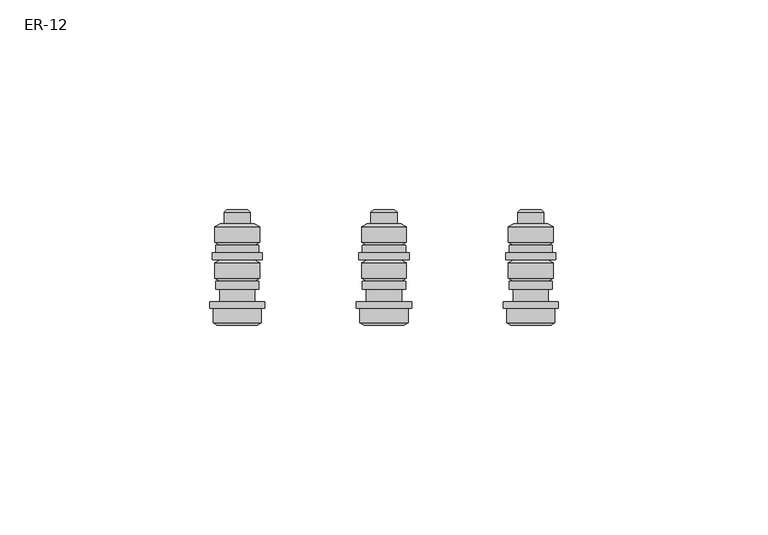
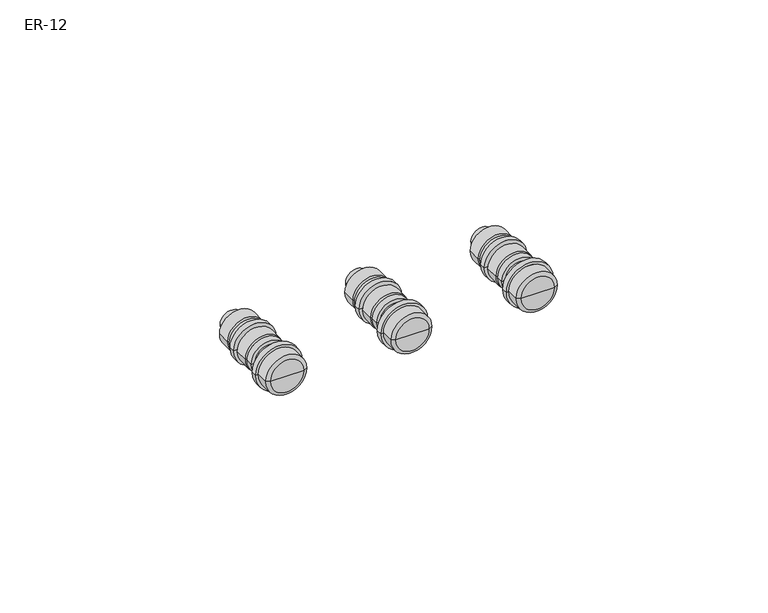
"""IFC4 building model written with IfcOpenShell, lengths in millimetres: proxy geometry, Шина заземления : ER-12."""

import ifcopenshell
import ifcopenshell.guid

model = None  # the IFC model being written
_history = None  # IfcOwnerHistory: only IFC2X3 demands one
_inside = {}  # id of a spatial element -> (the spatial element, [elements in it])
_under = {}  # id of a project, library or spatial element -> (it, [spatial elements below it])
_declared = {}  # id of a project -> (the project, [libraries it declares])
_typed = {}  # id of a type object -> (the type object, [elements of that type])
_made_of = {}  # id of a material, layer set ... -> (it, [elements and type objects made of it])


def new_model(schema):
    """Start an empty IFC model of exactly this schema.

    Asked for "IFC4X3", IfcOpenShell would pick the latest addendum, in which some entities
    have other attributes; the version numbers below select the first issue.
    IFC2X3 requires an IfcOwnerHistory on every rooted entity: one is made here for all.
    """
    global model, _history
    if schema == "IFC4X3":
        model = ifcopenshell.file(schema_version=(4, 3, 0, 0))
    else:
        model = ifcopenshell.file(schema=schema)
    _inside.clear()
    _under.clear()
    _declared.clear()
    _typed.clear()
    _made_of.clear()
    _history = None
    if model.schema == "IFC2X3":
        org = make("IfcOrganization", Name="unknown")
        user = make(
            "IfcPersonAndOrganization",
            ThePerson=make("IfcPerson", FamilyName="unknown"),
            TheOrganization=org,
        )
        app = make(
            "IfcApplication",
            ApplicationDeveloper=org,
            Version="unknown",
            ApplicationFullName="unknown",
            ApplicationIdentifier="unknown",
        )
        _history = make(
            "IfcOwnerHistory",
            OwningUser=user,
            OwningApplication=app,
            ChangeAction="ADDED",
            CreationDate=0,
        )
    return model


def make(cls, **values):
    """One entity of the class cls with the attributes given. An attribute that is None is left unset."""
    return model.create_entity(
        cls, **{name: value for name, value in values.items() if value is not None}
    )


def rooted(cls, **values):
    """An entity with a GlobalId (a new one), such as an element, a storey or a relation."""
    return make(cls, GlobalId=ifcopenshell.guid.new(), OwnerHistory=_history, **values)


def si_unit(unit_type, name, prefix=None):
    """IfcSIUnit, for example si_unit("LENGTHUNIT", "METRE", prefix="MILLI")."""
    return make("IfcSIUnit", UnitType=unit_type, Prefix=prefix, Name=name)


def assignment(units):
    """IfcUnitAssignment: the units of a project."""
    return None if units is None else make("IfcUnitAssignment", Units=units)


def point(xyz):
    """IfcCartesianPoint."""
    return None if xyz is None else make("IfcCartesianPoint", Coordinates=xyz)


def direction(xyz):
    """IfcDirection."""
    return None if xyz is None else make("IfcDirection", DirectionRatios=xyz)


def frame(location, z_axis=None, x_axis=None):
    """IfcAxis2Placement3D, a coordinate frame: its origin and axes. An axis left out is left unset."""
    return make(
        "IfcAxis2Placement3D",
        Location=point(location),
        Axis=direction(z_axis),
        RefDirection=direction(x_axis),
    )


def origin():
    """The frame at (0, 0, 0) with its axes left unset."""
    return frame((0.0, 0.0, 0.0))


def place(relative_to, where):
    """IfcLocalPlacement: puts the frame where relative to a parent placement (None: the world)."""
    return make(
        "IfcLocalPlacement", PlacementRelTo=relative_to, RelativePlacement=where
    )


def context(
    kind, dimensions, precision=None, world=None, true_north=None, identifier=None
):
    """IfcGeometricRepresentationContext, for example the 3D "Model" context."""
    return make(
        "IfcGeometricRepresentationContext",
        ContextIdentifier=identifier,
        ContextType=kind,
        CoordinateSpaceDimension=dimensions,
        Precision=precision,
        WorldCoordinateSystem=world,
        TrueNorth=true_north,
    )


def project(units=None, contexts=None):
    """IfcProject with its units and contexts."""
    return rooted(
        "IfcProject",
        Name="project",
        RepresentationContexts=contexts,
        UnitsInContext=assignment(units),
    )


def spatial(cls, under=None, at=None, **own):
    """A site, building, storey or space (cls), placed at a placement, below another one or the project."""
    s = rooted(cls, ObjectPlacement=at, **own)
    if under is not None:
        _under.setdefault(under.id(), (under, []))[1].append(s)
    return s


def polyline(points):
    """IfcPolyline through the points."""
    return make("IfcPolyline", Points=[point(p) for p in points])


def circle_curve(where, radius):
    """IfcCircle in the frame where."""
    return make("IfcCircle", Position=where, Radius=radius)


def shape(context_of_items, identifier, shape_type, items):
    """IfcShapeRepresentation: the items that make up one representation, for example the "Body"."""
    return make(
        "IfcShapeRepresentation",
        ContextOfItems=context_of_items,
        RepresentationIdentifier=identifier,
        RepresentationType=shape_type,
        Items=items,
    )


def source(mapping_origin, context_of_items, identifier, shape_type, items):
    """IfcRepresentationMap: a shape defined once, which mapped items show again and again."""
    return make(
        "IfcRepresentationMap",
        MappingOrigin=mapping_origin,
        MappedRepresentation=shape(context_of_items, identifier, shape_type, items),
    )


def transform(
    local_origin,
    x_axis=None,
    y_axis=None,
    z_axis=None,
    scale=None,
    scale2=None,
    scale3=None,
    uniform=True,
):
    """IfcCartesianTransformationOperator3D, or its non-uniform kind. x_axis, y_axis, z_axis: its Axis1, 2, 3."""
    if uniform:
        return make(
            "IfcCartesianTransformationOperator3D",
            Axis1=direction(x_axis),
            Axis2=direction(y_axis),
            LocalOrigin=point(local_origin),
            Scale=scale,
            Axis3=direction(z_axis),
        )
    return make(
        "IfcCartesianTransformationOperator3DnonUniform",
        Axis1=direction(x_axis),
        Axis2=direction(y_axis),
        LocalOrigin=point(local_origin),
        Scale=scale,
        Axis3=direction(z_axis),
        Scale2=scale2,
        Scale3=scale3,
    )


def mapped(mapping_source, mapping_target):
    """IfcMappedItem: shows the shape of a source again, moved by a transform."""
    return make(
        "IfcMappedItem", MappingSource=mapping_source, MappingTarget=mapping_target
    )


def made_of(thing, what):
    """Note that an element or type object is made of a material, layer set ...; save() writes the relation."""
    if what is not None:
        _made_of.setdefault(what.id(), (what, []))[1].append(thing)
    return thing


def element(
    cls,
    number,
    at=None,
    inside=None,
    cuts=None,
    type_object=None,
    material=None,
    context=None,
    identifier="Body",
    shape_type=None,
    held_by="IfcProductDefinitionShape",
    body=None,
    shapes=None,
    **own,
):
    """One element of the class cls, such as IfcWall. Its Tag is "e" and its number.

    at: its placement. inside: the storey or other place that contains it. cuts: it is an
    opening in that element (IfcRelVoidsElement). A single representation is given by context,
    identifier, shape_type and body (its items); several are given by shapes. held_by: the class
    of the entity that holds the representations. save() writes the other relations.
    """
    e = rooted(cls, Tag="e%d" % number, ObjectPlacement=at, **own)
    if body is not None:
        shapes = [shape(context, identifier, shape_type, body)]
    if shapes is not None:
        e.Representation = make(held_by, Representations=shapes)
    if inside is not None:
        _inside.setdefault(inside.id(), (inside, []))[1].append(e)
    if cuts is not None:
        rooted(
            "IfcRelVoidsElement", RelatingBuildingElement=cuts, RelatedOpeningElement=e
        )
    if type_object is not None:
        _typed.setdefault(type_object.id(), (type_object, []))[1].append(e)
    return made_of(e, material)


def aggregate(whole, parts):
    """IfcRelAggregates: a whole, such as a stair, and the parts it consists of."""
    return rooted("IfcRelAggregates", RelatingObject=whole, RelatedObjects=parts)


def save(model, path):
    """Write the relations noted so far, then the file.

    IfcRelAggregates (storeys below a building ...), IfcRelContainedInSpatialStructure (elements
    in a storey), IfcRelDefinesByType, IfcRelAssociatesMaterial and IfcRelDeclares: one each for
    every whole, place, type object, material and project.
    """
    for whole, parts in _under.values():
        aggregate(whole, parts)
    for where, things in _inside.values():
        rooted(
            "IfcRelContainedInSpatialStructure",
            RelatedElements=things,
            RelatingStructure=where,
        )
    for kind, things in _typed.values():
        rooted("IfcRelDefinesByType", RelatedObjects=things, RelatingType=kind)
    for what, things in _made_of.values():
        rooted("IfcRelAssociatesMaterial", RelatedObjects=things, RelatingMaterial=what)
    for by, libraries in _declared.values():
        rooted("IfcRelDeclares", RelatingContext=by, RelatedDefinitions=libraries)
    model.write(path)


def plane_surface(at):
    """IfcPlane: the flat surface through the origin of the frame at, square to its z axis."""
    return make("IfcPlane", Position=at)


def cylinder_surface(at, radius):
    """IfcCylindricalSurface: all points at the distance radius from the z axis of the frame at."""
    return make("IfcCylindricalSurface", Position=at, Radius=radius)


def revolved_surface(curve, axis_point, axis_direction):
    """IfcSurfaceOfRevolution: the curve turned about the line through axis_point along axis_direction."""
    return make(
        "IfcSurfaceOfRevolution",
        SweptCurve=make("IfcArbitraryOpenProfileDef", ProfileType="CURVE", Curve=curve),
        AxisPosition=make("IfcAxis1Placement", Location=point(axis_point), Axis=direction(axis_direction)),
    )


def advanced_brep(points, edges, surfaces, faces):
    """IfcAdvancedBrep: a solid bounded by faces that lie on surfaces and meet in shared edges.

    An edge is (start, end): straight between two places in points (the first is 0);
    or (start, end, curve); or (start, end, curve, False) where it runs against its curve.
    A face is (place in surfaces, loops), or (place, loops, False) where it looks against
    its surface's normal. A loop lists edges by number (the first is 1), with a minus sign
    where the edge is run from its end to its start. The first loop is the outer one.
    """
    corners = [point(p) for p in points]
    vertices = [make("IfcVertexPoint", VertexGeometry=c) for c in corners]
    made = []
    for start, end, *more in edges:
        made.append(
            make(
                "IfcEdgeCurve",
                EdgeStart=vertices[start],
                EdgeEnd=vertices[end],
                EdgeGeometry=more[0] if more else make("IfcPolyline", Points=[corners[start], corners[end]]),
                SameSense=more[1] if len(more) > 1 else True,
            )
        )
    hull = []
    for where, loops, *sense in faces:
        bounds = []
        for j, loop in enumerate(loops):
            ring = [make("IfcOrientedEdge", EdgeElement=made[abs(k) - 1], Orientation=k > 0) for k in loop]
            bounds.append(
                make(
                    "IfcFaceOuterBound" if j == 0 else "IfcFaceBound",
                    Bound=make("IfcEdgeLoop", EdgeList=ring),
                    Orientation=True,
                )
            )
        hull.append(make("IfcAdvancedFace", Bounds=bounds, FaceSurface=surfaces[where], SameSense=sense[0] if sense else True))
    return make("IfcAdvancedBrep", Outer=make("IfcClosedShell", CfsFaces=hull))


def er_12_a8c64b64(model_context):
    return source(origin(), model_context, "Body", "AdvancedBrep", [
        advanced_brep(
        [(-11.7264973, -8.0090804, 12.5), (-23.2735027, -8.0090804, 12.5), (-23.2735027, -4.6, 12.5), (-11.7264973, -4.6, 12.5), (-12.75, -8.6, 12.5), (-22.25, -8.6, 12.5), (-17.5, -8.6, 12.5), (-15.0415, 18.9478942, 12.5), (-19.9585, 18.9478942, 12.5), (-17.5, 18.9478942, 12.5), (-14.3828125, 18.3807956, 12.5), (-20.6171875, 18.3807956, 12.5), (-14.3828125, 15.6237103, 12.5), (-20.6171875, 15.6237103, 12.5), (-13.45, 15.6237103, 12.5), (-21.55, 15.6237103, 12.5), (-12.1764973, 14.8884531, 12.5), (-22.8235027, 14.8884531, 12.5), (-12.1764973, 11.1589674, 12.5), (-22.8235027, 11.1589674, 12.5), (-13.3098838, 10.4237103, 12.5), (-21.6901162, 10.4237103, 12.5), (-12.3240238, 10.4237103, 12.5), (-22.6759762, 10.4237103, 12.5), (-12.3240238, 8.637908, 12.5), (-22.6759762, 8.637908, 12.5), (-11.5, 8.637908, 12.5), (-23.5, 8.637908, 12.5), (-11.5, 7.037908, 12.5), (-23.5, 7.037908, 12.5), (-13.45, 7.037908, 12.5), (-21.55, 7.037908, 12.5), (-12.1764973, 6.3026509, 12.5), (-22.8235027, 6.3026509, 12.5), (-12.1764973, 2.5731651, 12.5), (-22.8235027, 2.5731651, 12.5), (-13.3098838, 1.837908, 12.5), (-21.6901162, 1.837908, 12.5), (-12.3240238, 1.837908, 12.5), (-22.6759762, 1.837908, 12.5), (-12.3240238, 0.0, 12.5), (-22.6759762, 0.0, 12.5), (-13.3098838, 0.0, 12.5), (-21.6901162, 0.0, 12.5), (-13.3098838, -3.0, 12.5), (-21.6901162, -3.0, 12.5), (-10.9352186, -3.0, 12.5), (-24.0647814, -3.0, 12.5), (-10.9352186, -4.6, 12.5), (-24.0647814, -4.6, 12.5)],
        [
            (0, 1, circle_curve(frame((-17.5, -8.0090804, 12.5), z_axis=(0.0, 1.0, 0.0), x_axis=(-1.0, 0.0, 0.0)), 5.7735027)),
            (1, 2),
            (2, 3, circle_curve(frame((-17.5, -4.6, 12.5), z_axis=(0.0, -1.0, 0.0), x_axis=(-1.0, 0.0, 0.0)), 5.7735027)),
            (3, 0),
            (1, 0, circle_curve(frame((-17.5, -8.0090804, 12.5), z_axis=(0.0, 1.0, 0.0), x_axis=(-1.0, 0.0, 0.0)), 5.7735027)),
            (3, 2, circle_curve(frame((-17.5, -4.6, 12.5), z_axis=(0.0, -1.0, 0.0), x_axis=(-1.0, 0.0, 0.0)), 5.7735027)),
            (4, 5, circle_curve(frame((-17.5, -8.6, 12.5), z_axis=(0.0, 1.0, 0.0), x_axis=(-1.0, 0.0, 0.0)), 4.75)),
            (5, 1),
            (0, 4),
            (5, 4, circle_curve(frame((-17.5, -8.6, 12.5), z_axis=(0.0, 1.0, 0.0), x_axis=(-1.0, 0.0, 0.0)), 4.75)),
            (6, 5),
            (4, 6),
            (7, 8, circle_curve(frame((-17.5, 18.9478942, 12.5), z_axis=(0.0, 1.0, 0.0), x_axis=(-1.0, 0.0, 0.0)), 2.4585)),
            (8, 9),
            (9, 7),
            (8, 7, circle_curve(frame((-17.5, 18.9478942, 12.5), z_axis=(0.0, 1.0, 0.0), x_axis=(-1.0, 0.0, 0.0)), 2.4585)),
            (10, 11, circle_curve(frame((-17.5, 18.3807956, 12.5), z_axis=(0.0, 1.0, 0.0), x_axis=(-1.0, 0.0, 0.0)), 3.1171875)),
            (11, 8),
            (7, 10),
            (11, 10, circle_curve(frame((-17.5, 18.3807956, 12.5), z_axis=(0.0, 1.0, 0.0), x_axis=(-1.0, 0.0, 0.0)), 3.1171875)),
            (12, 13, circle_curve(frame((-17.5, 15.6237103, 12.5), z_axis=(0.0, 1.0, 0.0), x_axis=(-1.0, 0.0, 0.0)), 3.1171875)),
            (13, 11),
            (10, 12),
            (13, 12, circle_curve(frame((-17.5, 15.6237103, 12.5), z_axis=(0.0, 1.0, 0.0), x_axis=(-1.0, 0.0, 0.0)), 3.1171875)),
            (14, 15, circle_curve(frame((-17.5, 15.6237103, 12.5), z_axis=(0.0, 1.0, 0.0), x_axis=(-1.0, 0.0, 0.0)), 4.05)),
            (15, 13),
            (12, 14),
            (15, 14, circle_curve(frame((-17.5, 15.6237103, 12.5), z_axis=(0.0, 1.0, 0.0), x_axis=(-1.0, 0.0, 0.0)), 4.05)),
            (16, 17, circle_curve(frame((-17.5, 14.8884531, 12.5), z_axis=(0.0, 1.0, 0.0), x_axis=(-1.0, 0.0, 0.0)), 5.3235027)),
            (17, 15),
            (14, 16),
            (17, 16, circle_curve(frame((-17.5, 14.8884531, 12.5), z_axis=(0.0, 1.0, 0.0), x_axis=(-1.0, 0.0, 0.0)), 5.3235027)),
            (18, 19, circle_curve(frame((-17.5, 11.1589674, 12.5), z_axis=(0.0, 1.0, 0.0), x_axis=(-1.0, 0.0, 0.0)), 5.3235027)),
            (19, 17),
            (16, 18),
            (19, 18, circle_curve(frame((-17.5, 11.1589674, 12.5), z_axis=(0.0, 1.0, 0.0), x_axis=(-1.0, 0.0, 0.0)), 5.3235027)),
            (20, 21, circle_curve(frame((-17.5, 10.4237103, 12.5), z_axis=(0.0, 1.0, 0.0), x_axis=(-1.0, 0.0, 0.0)), 4.1901162)),
            (21, 19),
            (18, 20),
            (21, 20, circle_curve(frame((-17.5, 10.4237103, 12.5), z_axis=(0.0, 1.0, 0.0), x_axis=(-1.0, 0.0, 0.0)), 4.1901162)),
            (22, 23, circle_curve(frame((-17.5, 10.4237103, 12.5), z_axis=(0.0, 1.0, 0.0), x_axis=(-1.0, 0.0, 0.0)), 5.1759762)),
            (23, 21),
            (20, 22),
            (23, 22, circle_curve(frame((-17.5, 10.4237103, 12.5), z_axis=(0.0, 1.0, 0.0), x_axis=(-1.0, 0.0, 0.0)), 5.1759762)),
            (24, 25, circle_curve(frame((-17.5, 8.637908, 12.5), z_axis=(0.0, 1.0, 0.0), x_axis=(-1.0, 0.0, 0.0)), 5.1759762)),
            (25, 23),
            (22, 24),
            (25, 24, circle_curve(frame((-17.5, 8.637908, 12.5), z_axis=(0.0, 1.0, 0.0), x_axis=(-1.0, 0.0, 0.0)), 5.1759762)),
            (26, 27, circle_curve(frame((-17.5, 8.637908, 12.5), z_axis=(0.0, 1.0, 0.0), x_axis=(-1.0, 0.0, 0.0)), 6.0)),
            (27, 25),
            (24, 26),
            (27, 26, circle_curve(frame((-17.5, 8.637908, 12.5), z_axis=(0.0, 1.0, 0.0), x_axis=(-1.0, 0.0, 0.0)), 6.0)),
            (28, 29, circle_curve(frame((-17.5, 7.037908, 12.5), z_axis=(0.0, 1.0, 0.0), x_axis=(-1.0, 0.0, 0.0)), 6.0)),
            (29, 27),
            (26, 28),
            (29, 28, circle_curve(frame((-17.5, 7.037908, 12.5), z_axis=(0.0, 1.0, 0.0), x_axis=(-1.0, 0.0, 0.0)), 6.0)),
            (30, 31, circle_curve(frame((-17.5, 7.037908, 12.5), z_axis=(0.0, 1.0, 0.0), x_axis=(-1.0, 0.0, 0.0)), 4.05)),
            (31, 29),
            (28, 30),
            (31, 30, circle_curve(frame((-17.5, 7.037908, 12.5), z_axis=(0.0, 1.0, 0.0), x_axis=(-1.0, 0.0, 0.0)), 4.05)),
            (32, 33, circle_curve(frame((-17.5, 6.3026509, 12.5), z_axis=(0.0, 1.0, 0.0), x_axis=(-1.0, 0.0, 0.0)), 5.3235027)),
            (33, 31),
            (30, 32),
            (33, 32, circle_curve(frame((-17.5, 6.3026509, 12.5), z_axis=(0.0, 1.0, 0.0), x_axis=(-1.0, 0.0, 0.0)), 5.3235027)),
            (34, 35, circle_curve(frame((-17.5, 2.5731651, 12.5), z_axis=(0.0, 1.0, 0.0), x_axis=(-1.0, 0.0, 0.0)), 5.3235027)),
            (35, 33),
            (32, 34),
            (35, 34, circle_curve(frame((-17.5, 2.5731651, 12.5), z_axis=(0.0, 1.0, 0.0), x_axis=(-1.0, 0.0, 0.0)), 5.3235027)),
            (36, 37, circle_curve(frame((-17.5, 1.837908, 12.5), z_axis=(0.0, 1.0, 0.0), x_axis=(-1.0, 0.0, 0.0)), 4.1901162)),
            (37, 35),
            (34, 36),
            (37, 36, circle_curve(frame((-17.5, 1.837908, 12.5), z_axis=(0.0, 1.0, 0.0), x_axis=(-1.0, 0.0, 0.0)), 4.1901162)),
            (38, 39, circle_curve(frame((-17.5, 1.837908, 12.5), z_axis=(0.0, 1.0, 0.0), x_axis=(-1.0, 0.0, 0.0)), 5.1759762)),
            (39, 37),
            (36, 38),
            (39, 38, circle_curve(frame((-17.5, 1.837908, 12.5), z_axis=(0.0, 1.0, 0.0), x_axis=(-1.0, 0.0, 0.0)), 5.1759762)),
            (40, 41, circle_curve(frame((-17.5, 0.0, 12.5), z_axis=(0.0, 1.0, 0.0), x_axis=(-1.0, 0.0, 0.0)), 5.1759762)),
            (41, 39),
            (38, 40),
            (41, 40, circle_curve(frame((-17.5, 0.0, 12.5), z_axis=(0.0, 1.0, 0.0), x_axis=(-1.0, 0.0, 0.0)), 5.1759762)),
            (42, 43, circle_curve(frame((-17.5, 0.0, 12.5), z_axis=(0.0, 1.0, 0.0), x_axis=(-1.0, 0.0, 0.0)), 4.1901162)),
            (43, 41),
            (40, 42),
            (43, 42, circle_curve(frame((-17.5, 0.0, 12.5), z_axis=(0.0, 1.0, 0.0), x_axis=(-1.0, 0.0, 0.0)), 4.1901162)),
            (44, 45, circle_curve(frame((-17.5, -3.0, 12.5), z_axis=(0.0, 1.0, 0.0), x_axis=(-1.0, 0.0, 0.0)), 4.1901162)),
            (45, 43),
            (42, 44),
            (45, 44, circle_curve(frame((-17.5, -3.0, 12.5), z_axis=(0.0, 1.0, 0.0), x_axis=(-1.0, 0.0, 0.0)), 4.1901162)),
            (46, 47, circle_curve(frame((-17.5, -3.0, 12.5), z_axis=(0.0, 1.0, 0.0), x_axis=(-1.0, 0.0, 0.0)), 6.5647814)),
            (47, 45),
            (44, 46),
            (47, 46, circle_curve(frame((-17.5, -3.0, 12.5), z_axis=(0.0, 1.0, 0.0), x_axis=(-1.0, 0.0, 0.0)), 6.5647814)),
            (48, 49, circle_curve(frame((-17.5, -4.6, 12.5), z_axis=(0.0, 1.0, 0.0), x_axis=(-1.0, 0.0, 0.0)), 6.5647814)),
            (49, 47),
            (46, 48),
            (49, 48, circle_curve(frame((-17.5, -4.6, 12.5), z_axis=(0.0, 1.0, 0.0), x_axis=(-1.0, 0.0, 0.0)), 6.5647814)),
            (2, 49),
            (48, 3),
        ],
        [
            cylinder_surface(frame((-17.5, 18.9478942, 12.5), z_axis=(0.0, -1.0, 0.0), x_axis=(-1.0, 0.0, 0.0)), 5.7735027),
            revolved_surface(polyline([(-23.2735027, -8.0090804, 12.5), (-22.25, -8.6, 12.5)]), (-17.5, 18.9478942, 12.5), (0.0, -1.0, 0.0)),
            plane_surface(frame((-17.5, -8.6, 12.5), z_axis=(0.0, -1.0, 0.0), x_axis=(-1.0, 0.0, 0.0))),
            plane_surface(frame((-17.5, 18.9478942, 12.5), z_axis=(0.0, 1.0, 0.0), x_axis=(-1.0, 0.0, 0.0))),
            revolved_surface(polyline([(-19.9585, 18.9478942, 12.5), (-20.6171875, 18.3807956, 12.5)]), (-17.5, 18.9478942, 12.5), (0.0, -1.0, 0.0)),
            cylinder_surface(frame((-17.5, 18.9478942, 12.5), z_axis=(0.0, -1.0, 0.0), x_axis=(-1.0, 0.0, 0.0)), 3.1171875),
            plane_surface(frame((-17.5, 15.6237103, 12.5), z_axis=(0.0, 1.0, 0.0), x_axis=(-1.0, 0.0, 0.0))),
            revolved_surface(polyline([(-21.55, 15.6237103, 12.5), (-22.8235027, 14.8884531, 12.5)]), (-17.5, 18.9478942, 12.5), (0.0, -1.0, 0.0)),
            cylinder_surface(frame((-17.5, 18.9478942, 12.5), z_axis=(0.0, -1.0, 0.0), x_axis=(-1.0, 0.0, 0.0)), 5.3235027),
            revolved_surface(polyline([(-22.8235027, 11.1589674, 12.5), (-21.6901162, 10.4237103, 12.5)]), (-17.5, 18.9478942, 12.5), (0.0, -1.0, 0.0)),
            plane_surface(frame((-17.5, 10.4237103, 12.5), z_axis=(0.0, 1.0, 0.0), x_axis=(-1.0, 0.0, 0.0))),
            cylinder_surface(frame((-17.5, 18.9478942, 12.5), z_axis=(0.0, -1.0, 0.0), x_axis=(-1.0, 0.0, 0.0)), 5.1759762),
            plane_surface(frame((-17.5, 8.637908, 12.5), z_axis=(0.0, 1.0, 0.0), x_axis=(-1.0, 0.0, 0.0))),
            cylinder_surface(frame((-17.5, 18.9478942, 12.5), z_axis=(0.0, -1.0, 0.0), x_axis=(-1.0, 0.0, 0.0)), 6.0),
            plane_surface(frame((-17.5, 7.037908, 12.5), z_axis=(0.0, -1.0, 0.0), x_axis=(-1.0, 0.0, 0.0))),
            revolved_surface(polyline([(-21.55, 7.037908, 12.5), (-22.8235027, 6.3026509, 12.5)]), (-17.5, 18.9478942, 12.5), (0.0, -1.0, 0.0)),
            revolved_surface(polyline([(-22.8235027, 2.5731651, 12.5), (-21.6901162, 1.837908, 12.5)]), (-17.5, 18.9478942, 12.5), (0.0, -1.0, 0.0)),
            plane_surface(frame((-17.5, 1.837908, 12.5), z_axis=(0.0, 1.0, 0.0), x_axis=(-1.0, 0.0, 0.0))),
            plane_surface(frame((-17.5, 0.0, 12.5), z_axis=(0.0, -1.0, 0.0), x_axis=(-1.0, 0.0, 0.0))),
            cylinder_surface(frame((-17.5, 18.9478942, 12.5), z_axis=(0.0, -1.0, 0.0), x_axis=(-1.0, 0.0, 0.0)), 4.1901162),
            plane_surface(frame((-17.5, -3.0, 12.5), z_axis=(0.0, 1.0, 0.0), x_axis=(-1.0, 0.0, 0.0))),
            cylinder_surface(frame((-17.5, 18.9478942, 12.5), z_axis=(0.0, -1.0, 0.0), x_axis=(-1.0, 0.0, 0.0)), 6.5647814),
            plane_surface(frame((-17.5, -4.6, 12.5), z_axis=(0.0, -1.0, 0.0), x_axis=(-1.0, 0.0, 0.0))),
        ],
        [
            (0, [[1, 2, 3, 4]]),
            (0, [[5, -4, 6, -2]]),
            (1, [[7, 8, -1, 9]]),
            (1, [[10, -9, -5, -8]]),
            (2, [[11, -7, 12]]),
            (2, [[-12, -10, -11]]),
            (3, [[13, 14, 15]]),
            (3, [[16, -15, -14]]),
            (4, [[17, 18, -13, 19]]),
            (4, [[20, -19, -16, -18]]),
            (5, [[21, 22, -17, 23]]),
            (5, [[24, -23, -20, -22]]),
            (6, [[25, 26, -21, 27]]),
            (6, [[28, -27, -24, -26]]),
            (7, [[29, 30, -25, 31]]),
            (7, [[32, -31, -28, -30]]),
            (8, [[33, 34, -29, 35]]),
            (8, [[36, -35, -32, -34]]),
            (9, [[37, 38, -33, 39]]),
            (9, [[40, -39, -36, -38]]),
            (10, [[41, 42, -37, 43]]),
            (10, [[44, -43, -40, -42]]),
            (11, [[45, 46, -41, 47]]),
            (11, [[48, -47, -44, -46]]),
            (12, [[49, 50, -45, 51]]),
            (12, [[52, -51, -48, -50]]),
            (13, [[53, 54, -49, 55]]),
            (13, [[56, -55, -52, -54]]),
            (14, [[57, 58, -53, 59]]),
            (14, [[60, -59, -56, -58]]),
            (15, [[61, 62, -57, 63]]),
            (15, [[64, -63, -60, -62]]),
            (8, [[65, 66, -61, 67]]),
            (8, [[68, -67, -64, -66]]),
            (16, [[69, 70, -65, 71]]),
            (16, [[72, -71, -68, -70]]),
            (17, [[73, 74, -69, 75]]),
            (17, [[76, -75, -72, -74]]),
            (11, [[77, 78, -73, 79]]),
            (11, [[80, -79, -76, -78]]),
            (18, [[81, 82, -77, 83]]),
            (18, [[84, -83, -80, -82]]),
            (19, [[85, 86, -81, 87]]),
            (19, [[88, -87, -84, -86]]),
            (20, [[89, 90, -85, 91]]),
            (20, [[92, -91, -88, -90]]),
            (21, [[93, 94, -89, 95]]),
            (21, [[96, -95, -92, -94]]),
            (22, [[-3, 97, -93, 98]]),
            (22, [[-6, -98, -96, -97]]),
        ],
    ),
        advanced_brep(
        [(-46.7264973, -8.0090804, 12.5), (-58.2735027, -8.0090804, 12.5), (-58.2735027, -4.6, 12.5), (-46.7264973, -4.6, 12.5), (-47.75, -8.6, 12.5), (-57.25, -8.6, 12.5), (-52.5, -8.6, 12.5), (-50.0415, 18.9478942, 12.5), (-54.9585, 18.9478942, 12.5), (-52.5, 18.9478942, 12.5), (-49.3828125, 18.3807956, 12.5), (-55.6171875, 18.3807956, 12.5), (-49.3828125, 15.6237103, 12.5), (-55.6171875, 15.6237103, 12.5), (-48.45, 15.6237103, 12.5), (-56.55, 15.6237103, 12.5), (-47.1764973, 14.8884531, 12.5), (-57.8235027, 14.8884531, 12.5), (-47.1764973, 11.1589674, 12.5), (-57.8235027, 11.1589674, 12.5), (-48.3098838, 10.4237103, 12.5), (-56.6901162, 10.4237103, 12.5), (-47.3240238, 10.4237103, 12.5), (-57.6759762, 10.4237103, 12.5), (-47.3240238, 8.637908, 12.5), (-57.6759762, 8.637908, 12.5), (-46.5, 8.637908, 12.5), (-58.5, 8.637908, 12.5), (-46.5, 7.037908, 12.5), (-58.5, 7.037908, 12.5), (-48.45, 7.037908, 12.5), (-56.55, 7.037908, 12.5), (-47.1764973, 6.3026509, 12.5), (-57.8235027, 6.3026509, 12.5), (-47.1764973, 2.5731651, 12.5), (-57.8235027, 2.5731651, 12.5), (-48.3098838, 1.837908, 12.5), (-56.6901162, 1.837908, 12.5), (-47.3240238, 1.837908, 12.5), (-57.6759762, 1.837908, 12.5), (-47.3240238, 0.0, 12.5), (-57.6759762, 0.0, 12.5), (-48.3098838, 0.0, 12.5), (-56.6901162, 0.0, 12.5), (-48.3098838, -3.0, 12.5), (-56.6901162, -3.0, 12.5), (-45.9352186, -3.0, 12.5), (-59.0647814, -3.0, 12.5), (-45.9352186, -4.6, 12.5), (-59.0647814, -4.6, 12.5)],
        [
            (0, 1, circle_curve(frame((-52.5, -8.0090804, 12.5), z_axis=(0.0, 1.0, 0.0), x_axis=(-1.0, 0.0, 0.0)), 5.7735027)),
            (1, 2),
            (2, 3, circle_curve(frame((-52.5, -4.6, 12.5), z_axis=(0.0, -1.0, 0.0), x_axis=(-1.0, 0.0, 0.0)), 5.7735027)),
            (3, 0),
            (1, 0, circle_curve(frame((-52.5, -8.0090804, 12.5), z_axis=(0.0, 1.0, 0.0), x_axis=(-1.0, 0.0, 0.0)), 5.7735027)),
            (3, 2, circle_curve(frame((-52.5, -4.6, 12.5), z_axis=(0.0, -1.0, 0.0), x_axis=(-1.0, 0.0, 0.0)), 5.7735027)),
            (4, 5, circle_curve(frame((-52.5, -8.6, 12.5), z_axis=(0.0, 1.0, 0.0), x_axis=(-1.0, 0.0, 0.0)), 4.75)),
            (5, 1),
            (0, 4),
            (5, 4, circle_curve(frame((-52.5, -8.6, 12.5), z_axis=(0.0, 1.0, 0.0), x_axis=(-1.0, 0.0, 0.0)), 4.75)),
            (6, 5),
            (4, 6),
            (7, 8, circle_curve(frame((-52.5, 18.9478942, 12.5), z_axis=(0.0, 1.0, 0.0), x_axis=(-1.0, 0.0, 0.0)), 2.4585)),
            (8, 9),
            (9, 7),
            (8, 7, circle_curve(frame((-52.5, 18.9478942, 12.5), z_axis=(0.0, 1.0, 0.0), x_axis=(-1.0, 0.0, 0.0)), 2.4585)),
            (10, 11, circle_curve(frame((-52.5, 18.3807956, 12.5), z_axis=(0.0, 1.0, 0.0), x_axis=(-1.0, 0.0, 0.0)), 3.1171875)),
            (11, 8),
            (7, 10),
            (11, 10, circle_curve(frame((-52.5, 18.3807956, 12.5), z_axis=(0.0, 1.0, 0.0), x_axis=(-1.0, 0.0, 0.0)), 3.1171875)),
            (12, 13, circle_curve(frame((-52.5, 15.6237103, 12.5), z_axis=(0.0, 1.0, 0.0), x_axis=(-1.0, 0.0, 0.0)), 3.1171875)),
            (13, 11),
            (10, 12),
            (13, 12, circle_curve(frame((-52.5, 15.6237103, 12.5), z_axis=(0.0, 1.0, 0.0), x_axis=(-1.0, 0.0, 0.0)), 3.1171875)),
            (14, 15, circle_curve(frame((-52.5, 15.6237103, 12.5), z_axis=(0.0, 1.0, 0.0), x_axis=(-1.0, 0.0, 0.0)), 4.05)),
            (15, 13),
            (12, 14),
            (15, 14, circle_curve(frame((-52.5, 15.6237103, 12.5), z_axis=(0.0, 1.0, 0.0), x_axis=(-1.0, 0.0, 0.0)), 4.05)),
            (16, 17, circle_curve(frame((-52.5, 14.8884531, 12.5), z_axis=(0.0, 1.0, 0.0), x_axis=(-1.0, 0.0, 0.0)), 5.3235027)),
            (17, 15),
            (14, 16),
            (17, 16, circle_curve(frame((-52.5, 14.8884531, 12.5), z_axis=(0.0, 1.0, 0.0), x_axis=(-1.0, 0.0, 0.0)), 5.3235027)),
            (18, 19, circle_curve(frame((-52.5, 11.1589674, 12.5), z_axis=(0.0, 1.0, 0.0), x_axis=(-1.0, 0.0, 0.0)), 5.3235027)),
            (19, 17),
            (16, 18),
            (19, 18, circle_curve(frame((-52.5, 11.1589674, 12.5), z_axis=(0.0, 1.0, 0.0), x_axis=(-1.0, 0.0, 0.0)), 5.3235027)),
            (20, 21, circle_curve(frame((-52.5, 10.4237103, 12.5), z_axis=(0.0, 1.0, 0.0), x_axis=(-1.0, 0.0, 0.0)), 4.1901162)),
            (21, 19),
            (18, 20),
            (21, 20, circle_curve(frame((-52.5, 10.4237103, 12.5), z_axis=(0.0, 1.0, 0.0), x_axis=(-1.0, 0.0, 0.0)), 4.1901162)),
            (22, 23, circle_curve(frame((-52.5, 10.4237103, 12.5), z_axis=(0.0, 1.0, 0.0), x_axis=(-1.0, 0.0, 0.0)), 5.1759762)),
            (23, 21),
            (20, 22),
            (23, 22, circle_curve(frame((-52.5, 10.4237103, 12.5), z_axis=(0.0, 1.0, 0.0), x_axis=(-1.0, 0.0, 0.0)), 5.1759762)),
            (24, 25, circle_curve(frame((-52.5, 8.637908, 12.5), z_axis=(0.0, 1.0, 0.0), x_axis=(-1.0, 0.0, 0.0)), 5.1759762)),
            (25, 23),
            (22, 24),
            (25, 24, circle_curve(frame((-52.5, 8.637908, 12.5), z_axis=(0.0, 1.0, 0.0), x_axis=(-1.0, 0.0, 0.0)), 5.1759762)),
            (26, 27, circle_curve(frame((-52.5, 8.637908, 12.5), z_axis=(0.0, 1.0, 0.0), x_axis=(-1.0, 0.0, 0.0)), 6.0)),
            (27, 25),
            (24, 26),
            (27, 26, circle_curve(frame((-52.5, 8.637908, 12.5), z_axis=(0.0, 1.0, 0.0), x_axis=(-1.0, 0.0, 0.0)), 6.0)),
            (28, 29, circle_curve(frame((-52.5, 7.037908, 12.5), z_axis=(0.0, 1.0, 0.0), x_axis=(-1.0, 0.0, 0.0)), 6.0)),
            (29, 27),
            (26, 28),
            (29, 28, circle_curve(frame((-52.5, 7.037908, 12.5), z_axis=(0.0, 1.0, 0.0), x_axis=(-1.0, 0.0, 0.0)), 6.0)),
            (30, 31, circle_curve(frame((-52.5, 7.037908, 12.5), z_axis=(0.0, 1.0, 0.0), x_axis=(-1.0, 0.0, 0.0)), 4.05)),
            (31, 29),
            (28, 30),
            (31, 30, circle_curve(frame((-52.5, 7.037908, 12.5), z_axis=(0.0, 1.0, 0.0), x_axis=(-1.0, 0.0, 0.0)), 4.05)),
            (32, 33, circle_curve(frame((-52.5, 6.3026509, 12.5), z_axis=(0.0, 1.0, 0.0), x_axis=(-1.0, 0.0, 0.0)), 5.3235027)),
            (33, 31),
            (30, 32),
            (33, 32, circle_curve(frame((-52.5, 6.3026509, 12.5), z_axis=(0.0, 1.0, 0.0), x_axis=(-1.0, 0.0, 0.0)), 5.3235027)),
            (34, 35, circle_curve(frame((-52.5, 2.5731651, 12.5), z_axis=(0.0, 1.0, 0.0), x_axis=(-1.0, 0.0, 0.0)), 5.3235027)),
            (35, 33),
            (32, 34),
            (35, 34, circle_curve(frame((-52.5, 2.5731651, 12.5), z_axis=(0.0, 1.0, 0.0), x_axis=(-1.0, 0.0, 0.0)), 5.3235027)),
            (36, 37, circle_curve(frame((-52.5, 1.837908, 12.5), z_axis=(0.0, 1.0, 0.0), x_axis=(-1.0, 0.0, 0.0)), 4.1901162)),
            (37, 35),
            (34, 36),
            (37, 36, circle_curve(frame((-52.5, 1.837908, 12.5), z_axis=(0.0, 1.0, 0.0), x_axis=(-1.0, 0.0, 0.0)), 4.1901162)),
            (38, 39, circle_curve(frame((-52.5, 1.837908, 12.5), z_axis=(0.0, 1.0, 0.0), x_axis=(-1.0, 0.0, 0.0)), 5.1759762)),
            (39, 37),
            (36, 38),
            (39, 38, circle_curve(frame((-52.5, 1.837908, 12.5), z_axis=(0.0, 1.0, 0.0), x_axis=(-1.0, 0.0, 0.0)), 5.1759762)),
            (40, 41, circle_curve(frame((-52.5, 0.0, 12.5), z_axis=(0.0, 1.0, 0.0), x_axis=(-1.0, 0.0, 0.0)), 5.1759762)),
            (41, 39),
            (38, 40),
            (41, 40, circle_curve(frame((-52.5, 0.0, 12.5), z_axis=(0.0, 1.0, 0.0), x_axis=(-1.0, 0.0, 0.0)), 5.1759762)),
            (42, 43, circle_curve(frame((-52.5, 0.0, 12.5), z_axis=(0.0, 1.0, 0.0), x_axis=(-1.0, 0.0, 0.0)), 4.1901162)),
            (43, 41),
            (40, 42),
            (43, 42, circle_curve(frame((-52.5, 0.0, 12.5), z_axis=(0.0, 1.0, 0.0), x_axis=(-1.0, 0.0, 0.0)), 4.1901162)),
            (44, 45, circle_curve(frame((-52.5, -3.0, 12.5), z_axis=(0.0, 1.0, 0.0), x_axis=(-1.0, 0.0, 0.0)), 4.1901162)),
            (45, 43),
            (42, 44),
            (45, 44, circle_curve(frame((-52.5, -3.0, 12.5), z_axis=(0.0, 1.0, 0.0), x_axis=(-1.0, 0.0, 0.0)), 4.1901162)),
            (46, 47, circle_curve(frame((-52.5, -3.0, 12.5), z_axis=(0.0, 1.0, 0.0), x_axis=(-1.0, 0.0, 0.0)), 6.5647814)),
            (47, 45),
            (44, 46),
            (47, 46, circle_curve(frame((-52.5, -3.0, 12.5), z_axis=(0.0, 1.0, 0.0), x_axis=(-1.0, 0.0, 0.0)), 6.5647814)),
            (48, 49, circle_curve(frame((-52.5, -4.6, 12.5), z_axis=(0.0, 1.0, 0.0), x_axis=(-1.0, 0.0, 0.0)), 6.5647814)),
            (49, 47),
            (46, 48),
            (49, 48, circle_curve(frame((-52.5, -4.6, 12.5), z_axis=(0.0, 1.0, 0.0), x_axis=(-1.0, 0.0, 0.0)), 6.5647814)),
            (2, 49),
            (48, 3),
        ],
        [
            cylinder_surface(frame((-52.5, 18.9478942, 12.5), z_axis=(0.0, -1.0, 0.0), x_axis=(-1.0, 0.0, 0.0)), 5.7735027),
            revolved_surface(polyline([(-58.2735027, -8.0090804, 12.5), (-57.25, -8.6, 12.5)]), (-52.5, 18.9478942, 12.5), (0.0, -1.0, 0.0)),
            plane_surface(frame((-52.5, -8.6, 12.5), z_axis=(0.0, -1.0, 0.0), x_axis=(-1.0, 0.0, 0.0))),
            plane_surface(frame((-52.5, 18.9478942, 12.5), z_axis=(0.0, 1.0, 0.0), x_axis=(-1.0, 0.0, 0.0))),
            revolved_surface(polyline([(-54.9585, 18.9478942, 12.5), (-55.6171875, 18.3807956, 12.5)]), (-52.5, 18.9478942, 12.5), (0.0, -1.0, 0.0)),
            cylinder_surface(frame((-52.5, 18.9478942, 12.5), z_axis=(0.0, -1.0, 0.0), x_axis=(-1.0, 0.0, 0.0)), 3.1171875),
            plane_surface(frame((-52.5, 15.6237103, 12.5), z_axis=(0.0, 1.0, 0.0), x_axis=(-1.0, 0.0, 0.0))),
            revolved_surface(polyline([(-56.55, 15.6237103, 12.5), (-57.8235027, 14.8884531, 12.5)]), (-52.5, 18.9478942, 12.5), (0.0, -1.0, 0.0)),
            cylinder_surface(frame((-52.5, 18.9478942, 12.5), z_axis=(0.0, -1.0, 0.0), x_axis=(-1.0, 0.0, 0.0)), 5.3235027),
            revolved_surface(polyline([(-57.8235027, 11.1589674, 12.5), (-56.6901162, 10.4237103, 12.5)]), (-52.5, 18.9478942, 12.5), (0.0, -1.0, 0.0)),
            plane_surface(frame((-52.5, 10.4237103, 12.5), z_axis=(0.0, 1.0, 0.0), x_axis=(-1.0, 0.0, 0.0))),
            cylinder_surface(frame((-52.5, 18.9478942, 12.5), z_axis=(0.0, -1.0, 0.0), x_axis=(-1.0, 0.0, 0.0)), 5.1759762),
            plane_surface(frame((-52.5, 8.637908, 12.5), z_axis=(0.0, 1.0, 0.0), x_axis=(-1.0, 0.0, 0.0))),
            cylinder_surface(frame((-52.5, 18.9478942, 12.5), z_axis=(0.0, -1.0, 0.0), x_axis=(-1.0, 0.0, 0.0)), 6.0),
            plane_surface(frame((-52.5, 7.037908, 12.5), z_axis=(0.0, -1.0, 0.0), x_axis=(-1.0, 0.0, 0.0))),
            revolved_surface(polyline([(-56.55, 7.037908, 12.5), (-57.8235027, 6.3026509, 12.5)]), (-52.5, 18.9478942, 12.5), (0.0, -1.0, 0.0)),
            revolved_surface(polyline([(-57.8235027, 2.5731651, 12.5), (-56.6901162, 1.837908, 12.5)]), (-52.5, 18.9478942, 12.5), (0.0, -1.0, 0.0)),
            plane_surface(frame((-52.5, 1.837908, 12.5), z_axis=(0.0, 1.0, 0.0), x_axis=(-1.0, 0.0, 0.0))),
            plane_surface(frame((-52.5, 0.0, 12.5), z_axis=(0.0, -1.0, 0.0), x_axis=(-1.0, 0.0, 0.0))),
            cylinder_surface(frame((-52.5, 18.9478942, 12.5), z_axis=(0.0, -1.0, 0.0), x_axis=(-1.0, 0.0, 0.0)), 4.1901162),
            plane_surface(frame((-52.5, -3.0, 12.5), z_axis=(0.0, 1.0, 0.0), x_axis=(-1.0, 0.0, 0.0))),
            cylinder_surface(frame((-52.5, 18.9478942, 12.5), z_axis=(0.0, -1.0, 0.0), x_axis=(-1.0, 0.0, 0.0)), 6.5647814),
            plane_surface(frame((-52.5, -4.6, 12.5), z_axis=(0.0, -1.0, 0.0), x_axis=(-1.0, 0.0, 0.0))),
        ],
        [
            (0, [[1, 2, 3, 4]]),
            (0, [[5, -4, 6, -2]]),
            (1, [[7, 8, -1, 9]]),
            (1, [[10, -9, -5, -8]]),
            (2, [[11, -7, 12]]),
            (2, [[-12, -10, -11]]),
            (3, [[13, 14, 15]]),
            (3, [[16, -15, -14]]),
            (4, [[17, 18, -13, 19]]),
            (4, [[20, -19, -16, -18]]),
            (5, [[21, 22, -17, 23]]),
            (5, [[24, -23, -20, -22]]),
            (6, [[25, 26, -21, 27]]),
            (6, [[28, -27, -24, -26]]),
            (7, [[29, 30, -25, 31]]),
            (7, [[32, -31, -28, -30]]),
            (8, [[33, 34, -29, 35]]),
            (8, [[36, -35, -32, -34]]),
            (9, [[37, 38, -33, 39]]),
            (9, [[40, -39, -36, -38]]),
            (10, [[41, 42, -37, 43]]),
            (10, [[44, -43, -40, -42]]),
            (11, [[45, 46, -41, 47]]),
            (11, [[48, -47, -44, -46]]),
            (12, [[49, 50, -45, 51]]),
            (12, [[52, -51, -48, -50]]),
            (13, [[53, 54, -49, 55]]),
            (13, [[56, -55, -52, -54]]),
            (14, [[57, 58, -53, 59]]),
            (14, [[60, -59, -56, -58]]),
            (15, [[61, 62, -57, 63]]),
            (15, [[64, -63, -60, -62]]),
            (8, [[65, 66, -61, 67]]),
            (8, [[68, -67, -64, -66]]),
            (16, [[69, 70, -65, 71]]),
            (16, [[72, -71, -68, -70]]),
            (17, [[73, 74, -69, 75]]),
            (17, [[76, -75, -72, -74]]),
            (11, [[77, 78, -73, 79]]),
            (11, [[80, -79, -76, -78]]),
            (18, [[81, 82, -77, 83]]),
            (18, [[84, -83, -80, -82]]),
            (19, [[85, 86, -81, 87]]),
            (19, [[88, -87, -84, -86]]),
            (20, [[89, 90, -85, 91]]),
            (20, [[92, -91, -88, -90]]),
            (21, [[93, 94, -89, 95]]),
            (21, [[96, -95, -92, -94]]),
            (22, [[-3, 97, -93, 98]]),
            (22, [[-6, -98, -96, -97]]),
        ],
    ),
        advanced_brep(
        [(-81.7264973, -8.0090804, 12.5), (-93.2735027, -8.0090804, 12.5), (-93.2735027, -4.6, 12.5), (-81.7264973, -4.6, 12.5), (-82.75, -8.6, 12.5), (-92.25, -8.6, 12.5), (-87.5, -8.6, 12.5), (-85.0415, 18.9478942, 12.5), (-89.9585, 18.9478942, 12.5), (-87.5, 18.9478942, 12.5), (-84.3828125, 18.3807956, 12.5), (-90.6171875, 18.3807956, 12.5), (-84.3828125, 15.6237103, 12.5), (-90.6171875, 15.6237103, 12.5), (-83.45, 15.6237103, 12.5), (-91.55, 15.6237103, 12.5), (-82.1764973, 14.8884531, 12.5), (-92.8235027, 14.8884531, 12.5), (-82.1764973, 11.1589674, 12.5), (-92.8235027, 11.1589674, 12.5), (-83.3098838, 10.4237103, 12.5), (-91.6901162, 10.4237103, 12.5), (-82.3240238, 10.4237103, 12.5), (-92.6759762, 10.4237103, 12.5), (-82.3240238, 8.637908, 12.5), (-92.6759762, 8.637908, 12.5), (-81.5, 8.637908, 12.5), (-93.5, 8.637908, 12.5), (-81.5, 7.037908, 12.5), (-93.5, 7.037908, 12.5), (-83.45, 7.037908, 12.5), (-91.55, 7.037908, 12.5), (-82.1764973, 6.3026509, 12.5), (-92.8235027, 6.3026509, 12.5), (-82.1764973, 2.5731651, 12.5), (-92.8235027, 2.5731651, 12.5), (-83.3098838, 1.837908, 12.5), (-91.6901162, 1.837908, 12.5), (-82.3240238, 1.837908, 12.5), (-92.6759762, 1.837908, 12.5), (-82.3240238, 0.0, 12.5), (-92.6759762, 0.0, 12.5), (-83.3098838, 0.0, 12.5), (-91.6901162, 0.0, 12.5), (-83.3098838, -3.0, 12.5), (-91.6901162, -3.0, 12.5), (-80.9352186, -3.0, 12.5), (-94.0647814, -3.0, 12.5), (-80.9352186, -4.6, 12.5), (-94.0647814, -4.6, 12.5)],
        [
            (0, 1, circle_curve(frame((-87.5, -8.0090804, 12.5), z_axis=(0.0, 1.0, 0.0), x_axis=(-1.0, 0.0, 0.0)), 5.7735027)),
            (1, 2),
            (2, 3, circle_curve(frame((-87.5, -4.6, 12.5), z_axis=(0.0, -1.0, 0.0), x_axis=(-1.0, 0.0, 0.0)), 5.7735027)),
            (3, 0),
            (1, 0, circle_curve(frame((-87.5, -8.0090804, 12.5), z_axis=(0.0, 1.0, 0.0), x_axis=(-1.0, 0.0, 0.0)), 5.7735027)),
            (3, 2, circle_curve(frame((-87.5, -4.6, 12.5), z_axis=(0.0, -1.0, 0.0), x_axis=(-1.0, 0.0, 0.0)), 5.7735027)),
            (4, 5, circle_curve(frame((-87.5, -8.6, 12.5), z_axis=(0.0, 1.0, 0.0), x_axis=(-1.0, 0.0, 0.0)), 4.75)),
            (5, 1),
            (0, 4),
            (5, 4, circle_curve(frame((-87.5, -8.6, 12.5), z_axis=(0.0, 1.0, 0.0), x_axis=(-1.0, 0.0, 0.0)), 4.75)),
            (6, 5),
            (4, 6),
            (7, 8, circle_curve(frame((-87.5, 18.9478942, 12.5), z_axis=(0.0, 1.0, 0.0), x_axis=(-1.0, 0.0, 0.0)), 2.4585)),
            (8, 9),
            (9, 7),
            (8, 7, circle_curve(frame((-87.5, 18.9478942, 12.5), z_axis=(0.0, 1.0, 0.0), x_axis=(-1.0, 0.0, 0.0)), 2.4585)),
            (10, 11, circle_curve(frame((-87.5, 18.3807956, 12.5), z_axis=(0.0, 1.0, 0.0), x_axis=(-1.0, 0.0, 0.0)), 3.1171875)),
            (11, 8),
            (7, 10),
            (11, 10, circle_curve(frame((-87.5, 18.3807956, 12.5), z_axis=(0.0, 1.0, 0.0), x_axis=(-1.0, 0.0, 0.0)), 3.1171875)),
            (12, 13, circle_curve(frame((-87.5, 15.6237103, 12.5), z_axis=(0.0, 1.0, 0.0), x_axis=(-1.0, 0.0, 0.0)), 3.1171875)),
            (13, 11),
            (10, 12),
            (13, 12, circle_curve(frame((-87.5, 15.6237103, 12.5), z_axis=(0.0, 1.0, 0.0), x_axis=(-1.0, 0.0, 0.0)), 3.1171875)),
            (14, 15, circle_curve(frame((-87.5, 15.6237103, 12.5), z_axis=(0.0, 1.0, 0.0), x_axis=(-1.0, 0.0, 0.0)), 4.05)),
            (15, 13),
            (12, 14),
            (15, 14, circle_curve(frame((-87.5, 15.6237103, 12.5), z_axis=(0.0, 1.0, 0.0), x_axis=(-1.0, 0.0, 0.0)), 4.05)),
            (16, 17, circle_curve(frame((-87.5, 14.8884531, 12.5), z_axis=(0.0, 1.0, 0.0), x_axis=(-1.0, 0.0, 0.0)), 5.3235027)),
            (17, 15),
            (14, 16),
            (17, 16, circle_curve(frame((-87.5, 14.8884531, 12.5), z_axis=(0.0, 1.0, 0.0), x_axis=(-1.0, 0.0, 0.0)), 5.3235027)),
            (18, 19, circle_curve(frame((-87.5, 11.1589674, 12.5), z_axis=(0.0, 1.0, 0.0), x_axis=(-1.0, 0.0, 0.0)), 5.3235027)),
            (19, 17),
            (16, 18),
            (19, 18, circle_curve(frame((-87.5, 11.1589674, 12.5), z_axis=(0.0, 1.0, 0.0), x_axis=(-1.0, 0.0, 0.0)), 5.3235027)),
            (20, 21, circle_curve(frame((-87.5, 10.4237103, 12.5), z_axis=(0.0, 1.0, 0.0), x_axis=(-1.0, 0.0, 0.0)), 4.1901162)),
            (21, 19),
            (18, 20),
            (21, 20, circle_curve(frame((-87.5, 10.4237103, 12.5), z_axis=(0.0, 1.0, 0.0), x_axis=(-1.0, 0.0, 0.0)), 4.1901162)),
            (22, 23, circle_curve(frame((-87.5, 10.4237103, 12.5), z_axis=(0.0, 1.0, 0.0), x_axis=(-1.0, 0.0, 0.0)), 5.1759762)),
            (23, 21),
            (20, 22),
            (23, 22, circle_curve(frame((-87.5, 10.4237103, 12.5), z_axis=(0.0, 1.0, 0.0), x_axis=(-1.0, 0.0, 0.0)), 5.1759762)),
            (24, 25, circle_curve(frame((-87.5, 8.637908, 12.5), z_axis=(0.0, 1.0, 0.0), x_axis=(-1.0, 0.0, 0.0)), 5.1759762)),
            (25, 23),
            (22, 24),
            (25, 24, circle_curve(frame((-87.5, 8.637908, 12.5), z_axis=(0.0, 1.0, 0.0), x_axis=(-1.0, 0.0, 0.0)), 5.1759762)),
            (26, 27, circle_curve(frame((-87.5, 8.637908, 12.5), z_axis=(0.0, 1.0, 0.0), x_axis=(-1.0, 0.0, 0.0)), 6.0)),
            (27, 25),
            (24, 26),
            (27, 26, circle_curve(frame((-87.5, 8.637908, 12.5), z_axis=(0.0, 1.0, 0.0), x_axis=(-1.0, 0.0, 0.0)), 6.0)),
            (28, 29, circle_curve(frame((-87.5, 7.037908, 12.5), z_axis=(0.0, 1.0, 0.0), x_axis=(-1.0, 0.0, 0.0)), 6.0)),
            (29, 27),
            (26, 28),
            (29, 28, circle_curve(frame((-87.5, 7.037908, 12.5), z_axis=(0.0, 1.0, 0.0), x_axis=(-1.0, 0.0, 0.0)), 6.0)),
            (30, 31, circle_curve(frame((-87.5, 7.037908, 12.5), z_axis=(0.0, 1.0, 0.0), x_axis=(-1.0, 0.0, 0.0)), 4.05)),
            (31, 29),
            (28, 30),
            (31, 30, circle_curve(frame((-87.5, 7.037908, 12.5), z_axis=(0.0, 1.0, 0.0), x_axis=(-1.0, 0.0, 0.0)), 4.05)),
            (32, 33, circle_curve(frame((-87.5, 6.3026509, 12.5), z_axis=(0.0, 1.0, 0.0), x_axis=(-1.0, 0.0, 0.0)), 5.3235027)),
            (33, 31),
            (30, 32),
            (33, 32, circle_curve(frame((-87.5, 6.3026509, 12.5), z_axis=(0.0, 1.0, 0.0), x_axis=(-1.0, 0.0, 0.0)), 5.3235027)),
            (34, 35, circle_curve(frame((-87.5, 2.5731651, 12.5), z_axis=(0.0, 1.0, 0.0), x_axis=(-1.0, 0.0, 0.0)), 5.3235027)),
            (35, 33),
            (32, 34),
            (35, 34, circle_curve(frame((-87.5, 2.5731651, 12.5), z_axis=(0.0, 1.0, 0.0), x_axis=(-1.0, 0.0, 0.0)), 5.3235027)),
            (36, 37, circle_curve(frame((-87.5, 1.837908, 12.5), z_axis=(0.0, 1.0, 0.0), x_axis=(-1.0, 0.0, 0.0)), 4.1901162)),
            (37, 35),
            (34, 36),
            (37, 36, circle_curve(frame((-87.5, 1.837908, 12.5), z_axis=(0.0, 1.0, 0.0), x_axis=(-1.0, 0.0, 0.0)), 4.1901162)),
            (38, 39, circle_curve(frame((-87.5, 1.837908, 12.5), z_axis=(0.0, 1.0, 0.0), x_axis=(-1.0, 0.0, 0.0)), 5.1759762)),
            (39, 37),
            (36, 38),
            (39, 38, circle_curve(frame((-87.5, 1.837908, 12.5), z_axis=(0.0, 1.0, 0.0), x_axis=(-1.0, 0.0, 0.0)), 5.1759762)),
            (40, 41, circle_curve(frame((-87.5, 0.0, 12.5), z_axis=(0.0, 1.0, 0.0), x_axis=(-1.0, 0.0, 0.0)), 5.1759762)),
            (41, 39),
            (38, 40),
            (41, 40, circle_curve(frame((-87.5, 0.0, 12.5), z_axis=(0.0, 1.0, 0.0), x_axis=(-1.0, 0.0, 0.0)), 5.1759762)),
            (42, 43, circle_curve(frame((-87.5, 0.0, 12.5), z_axis=(0.0, 1.0, 0.0), x_axis=(-1.0, 0.0, 0.0)), 4.1901162)),
            (43, 41),
            (40, 42),
            (43, 42, circle_curve(frame((-87.5, 0.0, 12.5), z_axis=(0.0, 1.0, 0.0), x_axis=(-1.0, 0.0, 0.0)), 4.1901162)),
            (44, 45, circle_curve(frame((-87.5, -3.0, 12.5), z_axis=(0.0, 1.0, 0.0), x_axis=(-1.0, 0.0, 0.0)), 4.1901162)),
            (45, 43),
            (42, 44),
            (45, 44, circle_curve(frame((-87.5, -3.0, 12.5), z_axis=(0.0, 1.0, 0.0), x_axis=(-1.0, 0.0, 0.0)), 4.1901162)),
            (46, 47, circle_curve(frame((-87.5, -3.0, 12.5), z_axis=(0.0, 1.0, 0.0), x_axis=(-1.0, 0.0, 0.0)), 6.5647814)),
            (47, 45),
            (44, 46),
            (47, 46, circle_curve(frame((-87.5, -3.0, 12.5), z_axis=(0.0, 1.0, 0.0), x_axis=(-1.0, 0.0, 0.0)), 6.5647814)),
            (48, 49, circle_curve(frame((-87.5, -4.6, 12.5), z_axis=(0.0, 1.0, 0.0), x_axis=(-1.0, 0.0, 0.0)), 6.5647814)),
            (49, 47),
            (46, 48),
            (49, 48, circle_curve(frame((-87.5, -4.6, 12.5), z_axis=(0.0, 1.0, 0.0), x_axis=(-1.0, 0.0, 0.0)), 6.5647814)),
            (2, 49),
            (48, 3),
        ],
        [
            cylinder_surface(frame((-87.5, 18.9478942, 12.5), z_axis=(0.0, -1.0, 0.0), x_axis=(-1.0, 0.0, 0.0)), 5.7735027),
            revolved_surface(polyline([(-93.2735027, -8.0090804, 12.5), (-92.25, -8.6, 12.5)]), (-87.5, 18.9478942, 12.5), (0.0, -1.0, 0.0)),
            plane_surface(frame((-87.5, -8.6, 12.5), z_axis=(0.0, -1.0, 0.0), x_axis=(-1.0, 0.0, 0.0))),
            plane_surface(frame((-87.5, 18.9478942, 12.5), z_axis=(0.0, 1.0, 0.0), x_axis=(-1.0, 0.0, 0.0))),
            revolved_surface(polyline([(-89.9585, 18.9478942, 12.5), (-90.6171875, 18.3807956, 12.5)]), (-87.5, 18.9478942, 12.5), (0.0, -1.0, 0.0)),
            cylinder_surface(frame((-87.5, 18.9478942, 12.5), z_axis=(0.0, -1.0, 0.0), x_axis=(-1.0, 0.0, 0.0)), 3.1171875),
            plane_surface(frame((-87.5, 15.6237103, 12.5), z_axis=(0.0, 1.0, 0.0), x_axis=(-1.0, 0.0, 0.0))),
            revolved_surface(polyline([(-91.55, 15.6237103, 12.5), (-92.8235027, 14.8884531, 12.5)]), (-87.5, 18.9478942, 12.5), (0.0, -1.0, 0.0)),
            cylinder_surface(frame((-87.5, 18.9478942, 12.5), z_axis=(0.0, -1.0, 0.0), x_axis=(-1.0, 0.0, 0.0)), 5.3235027),
            revolved_surface(polyline([(-92.8235027, 11.1589674, 12.5), (-91.6901162, 10.4237103, 12.5)]), (-87.5, 18.9478942, 12.5), (0.0, -1.0, 0.0)),
            plane_surface(frame((-87.5, 10.4237103, 12.5), z_axis=(0.0, 1.0, 0.0), x_axis=(-1.0, 0.0, 0.0))),
            cylinder_surface(frame((-87.5, 18.9478942, 12.5), z_axis=(0.0, -1.0, 0.0), x_axis=(-1.0, 0.0, 0.0)), 5.1759762),
            plane_surface(frame((-87.5, 8.637908, 12.5), z_axis=(0.0, 1.0, 0.0), x_axis=(-1.0, 0.0, 0.0))),
            cylinder_surface(frame((-87.5, 18.9478942, 12.5), z_axis=(0.0, -1.0, 0.0), x_axis=(-1.0, 0.0, 0.0)), 6.0),
            plane_surface(frame((-87.5, 7.037908, 12.5), z_axis=(0.0, -1.0, 0.0), x_axis=(-1.0, 0.0, 0.0))),
            revolved_surface(polyline([(-91.55, 7.037908, 12.5), (-92.8235027, 6.3026509, 12.5)]), (-87.5, 18.9478942, 12.5), (0.0, -1.0, 0.0)),
            revolved_surface(polyline([(-92.8235027, 2.5731651, 12.5), (-91.6901162, 1.837908, 12.5)]), (-87.5, 18.9478942, 12.5), (0.0, -1.0, 0.0)),
            plane_surface(frame((-87.5, 1.837908, 12.5), z_axis=(0.0, 1.0, 0.0), x_axis=(-1.0, 0.0, 0.0))),
            plane_surface(frame((-87.5, 0.0, 12.5), z_axis=(0.0, -1.0, 0.0), x_axis=(-1.0, 0.0, 0.0))),
            cylinder_surface(frame((-87.5, 18.9478942, 12.5), z_axis=(0.0, -1.0, 0.0), x_axis=(-1.0, 0.0, 0.0)), 4.1901162),
            plane_surface(frame((-87.5, -3.0, 12.5), z_axis=(0.0, 1.0, 0.0), x_axis=(-1.0, 0.0, 0.0))),
            cylinder_surface(frame((-87.5, 18.9478942, 12.5), z_axis=(0.0, -1.0, 0.0), x_axis=(-1.0, 0.0, 0.0)), 6.5647814),
            plane_surface(frame((-87.5, -4.6, 12.5), z_axis=(0.0, -1.0, 0.0), x_axis=(-1.0, 0.0, 0.0))),
        ],
        [
            (0, [[1, 2, 3, 4]]),
            (0, [[5, -4, 6, -2]]),
            (1, [[7, 8, -1, 9]]),
            (1, [[10, -9, -5, -8]]),
            (2, [[11, -7, 12]]),
            (2, [[-12, -10, -11]]),
            (3, [[13, 14, 15]]),
            (3, [[16, -15, -14]]),
            (4, [[17, 18, -13, 19]]),
            (4, [[20, -19, -16, -18]]),
            (5, [[21, 22, -17, 23]]),
            (5, [[24, -23, -20, -22]]),
            (6, [[25, 26, -21, 27]]),
            (6, [[28, -27, -24, -26]]),
            (7, [[29, 30, -25, 31]]),
            (7, [[32, -31, -28, -30]]),
            (8, [[33, 34, -29, 35]]),
            (8, [[36, -35, -32, -34]]),
            (9, [[37, 38, -33, 39]]),
            (9, [[40, -39, -36, -38]]),
            (10, [[41, 42, -37, 43]]),
            (10, [[44, -43, -40, -42]]),
            (11, [[45, 46, -41, 47]]),
            (11, [[48, -47, -44, -46]]),
            (12, [[49, 50, -45, 51]]),
            (12, [[52, -51, -48, -50]]),
            (13, [[53, 54, -49, 55]]),
            (13, [[56, -55, -52, -54]]),
            (14, [[57, 58, -53, 59]]),
            (14, [[60, -59, -56, -58]]),
            (15, [[61, 62, -57, 63]]),
            (15, [[64, -63, -60, -62]]),
            (8, [[65, 66, -61, 67]]),
            (8, [[68, -67, -64, -66]]),
            (16, [[69, 70, -65, 71]]),
            (16, [[72, -71, -68, -70]]),
            (17, [[73, 74, -69, 75]]),
            (17, [[76, -75, -72, -74]]),
            (11, [[77, 78, -73, 79]]),
            (11, [[80, -79, -76, -78]]),
            (18, [[81, 82, -77, 83]]),
            (18, [[84, -83, -80, -82]]),
            (19, [[85, 86, -81, 87]]),
            (19, [[88, -87, -84, -86]]),
            (20, [[89, 90, -85, 91]]),
            (20, [[92, -91, -88, -90]]),
            (21, [[93, 94, -89, 95]]),
            (21, [[96, -95, -92, -94]]),
            (22, [[-3, 97, -93, 98]]),
            (22, [[-6, -98, -96, -97]]),
        ],
    ),
    ])


if __name__ == "__main__":
    model = new_model("IFC4")
    model_context = context("Model", 3, world=origin())
    ifc_project = project(units=[si_unit("LENGTHUNIT", "METRE", prefix="MILLI")], contexts=[model_context])
    site = spatial("IfcSite", under=ifc_project)
    building = spatial("IfcBuilding", under=site)
    placement = place(None, origin())
    er_12_shape = er_12_a8c64b64(model_context)
    element("IfcBuildingElementProxy", 1, Name="Шина заземления : ER-12", ObjectType="Шина заземления : ER-12", at=placement, inside=building, context=model_context, shape_type="MappedRepresentation", body=[
        mapped(er_12_shape, transform((0.0, 0.0, 0.0), x_axis=(1.0, 0.0, 0.0), y_axis=(0.0, 1.0, 0.0), z_axis=(0.0, 0.0, 1.0))),
    ])
    save(model, "model.ifc")
